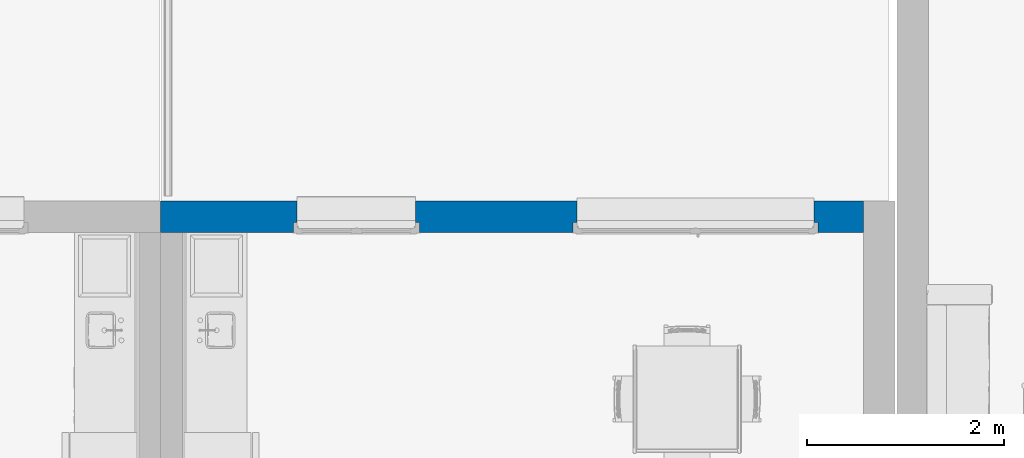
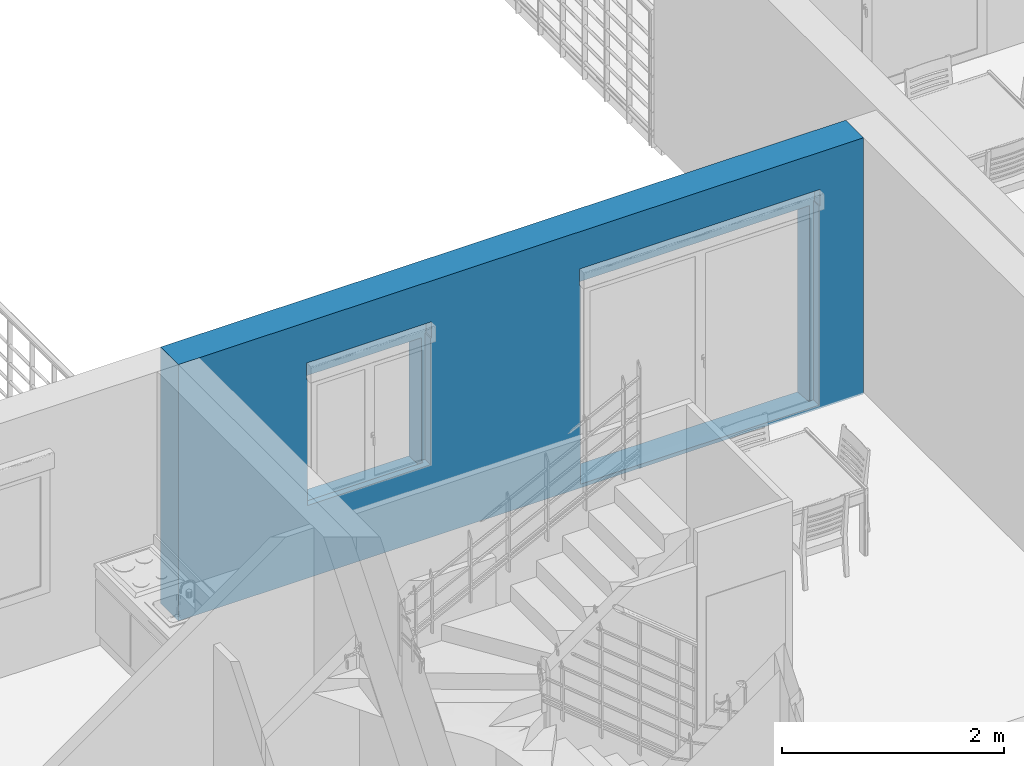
# One storey, part 12 of 33: 1 wall, 2 openings.
"""IFC2X3 building model written with IfcOpenShell, lengths in metres."""

from ifc_helpers import new_model, entity, si_unit, converted_unit, derived_unit, direction, frame, frame_2d, origin, place, context, subcontext, project, spatial, rectangle, extrude, faceted_brep, material, layer, layer_set, layer_usage, type_object, element, save


model = new_model("IFC2X3")

# Units and contexts
model_context = context("Model", 3, precision=1e-05, world=origin(), true_north=direction((6.12303176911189e-17, 1.0)))
context_of_model = context(None, 3, precision=1e-05, world=origin(), true_north=direction((6.12303176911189e-17, 1.0)))
body_context = subcontext(model_context, "Body", "Model", "MODEL_VIEW")
ifc_project = project(units=[si_unit("LENGTHUNIT", "METRE"), si_unit("AREAUNIT", "SQUARE_METRE"), si_unit("VOLUMEUNIT", "CUBIC_METRE"), converted_unit("PLANEANGLEUNIT", "DEGREE", entity("IfcRatioMeasure", 0.0174532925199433), si_unit("PLANEANGLEUNIT", "RADIAN"), dimensions=[0, 0, 0, 0, 0, 0, 0]), si_unit("MASSUNIT", "GRAM", prefix="KILO"), si_unit("TIMEUNIT", "SECOND"), si_unit("FREQUENCYUNIT", "HERTZ"), si_unit("THERMODYNAMICTEMPERATUREUNIT", "DEGREE_CELSIUS"), derived_unit("THERMALTRANSMITTANCEUNIT", [(si_unit("MASSUNIT", "GRAM", prefix="KILO"), 1), (si_unit("THERMODYNAMICTEMPERATUREUNIT", "KELVIN"), -1), (si_unit("TIMEUNIT", "SECOND"), -3)]), derived_unit("VOLUMETRICFLOWRATEUNIT", [(si_unit("LENGTHUNIT", "METRE"), 3), (si_unit("TIMEUNIT", "SECOND"), -1)]), si_unit("ELECTRICCURRENTUNIT", "AMPERE"), si_unit("ELECTRICVOLTAGEUNIT", "VOLT"), si_unit("POWERUNIT", "WATT"), si_unit("FORCEUNIT", "NEWTON", prefix="KILO"), si_unit("ILLUMINANCEUNIT", "LUX"), si_unit("LUMINOUSFLUXUNIT", "LUMEN"), si_unit("LUMINOUSINTENSITYUNIT", "CANDELA"), si_unit("PRESSUREUNIT", "PASCAL")], contexts=[model_context, context_of_model])

# Site, building, storey
site_placement = place(None, origin())
site = spatial("IfcSite", under=ifc_project, at=site_placement, Name="Surface", CompositionType="ELEMENT")
building_placement = place(site_placement, origin())
building = spatial("IfcBuilding", under=site, at=building_placement, CompositionType="ELEMENT")
storey_placement = place(building_placement, origin())
storey = spatial("IfcBuildingStorey", under=building, at=storey_placement, Name="Plan des fondations  Maisons 1 et 2", CompositionType="ELEMENT", Elevation=0.0)

# Wall, openings
ifc_material_1 = material(Name="Enduit blanc cassé2")
ifc_layer_1 = layer(ifc_material_1, 0.02)
ifc_material_2 = material(Name="Parpaing")
ifc_layer_2 = layer(ifc_material_2, 0.2)
ifc_material_3 = material(Name="Isolant")
ifc_layer_3 = layer(ifc_material_3, 0.1)
ifc_layer_set = layer_set([ifc_layer_1, ifc_layer_2, ifc_layer_3], Name="Mur de base:Ext. Parpaing 20 + Isolant 10 enduit blanc cassé")
ifc_layer_usage = layer_usage(ifc_layer_set, "AXIS2", "POSITIVE", -0.16)
wall_type = type_object("IfcWallType", Name="Mur de base:Ext. Parpaing 20 + Isolant 10 enduit blanc cassé", PredefinedType="STANDARD", material=ifc_layer_set)
wall_placement = place(storey_placement, frame((75.962889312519, 88.2677566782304, 0.0), z_axis=(0.0, 0.0, 1.0), x_axis=(-1.0, 0.0, 0.0)))
wall = element("IfcWallStandardCase", 1, at=wall_placement, inside=storey, type_object=wall_type, material=ifc_layer_usage, Name="Mur de base:Ext. Parpaing 20 + Isolant 10 enduit blanc cassé", ObjectType="Mur de base:Ext. Parpaing 20 + Isolant 10 enduit blanc cassé", context=body_context, shape_type="SweptSolid", body=[
    extrude(rectangle(XDim=7.1282629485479, YDim=0.319999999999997, at=frame_2d((3.56413147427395, 0.0), x_axis=(-1.0, 0.0))), origin(), (0.0, 0.0, 1.0), 2.82),
])
opening_1_placement = place(wall_placement, frame((5.79220465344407, 0.499999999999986, 0.719999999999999), z_axis=(0.0, 0.0, 1.0), x_axis=(-1.0, 0.0, 0.0)))
element("IfcOpeningElement", 2, at=opening_1_placement, cuts=wall, Name="Mur de base:Ext. Parpaing 20 + Isolant 10 enduit blanc cassé", ObjectType="Opening", context=body_context, shape_type="Brep", body=[
    faceted_brep([(1.24999999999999, 0.0, 1.43), (0.0499999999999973, 0.0, 1.43), (0.0499999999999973, 0.0, 0.0799999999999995), (1.24999999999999, 0.0, 0.0799999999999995), (1.25, 1.0, 1.43), (1.25, 1.0, 0.0799999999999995), (0.050000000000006, 1.0, 0.0799999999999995), (0.050000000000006, 1.0, 1.43), (1.25, 0.326999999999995, 1.43), (0.050000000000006, 0.326999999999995, 1.43), (0.0499999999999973, 0.326999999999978, 0.0799999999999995), (0.00999999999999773, 0.326999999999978, 0.0799999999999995), (0.00999999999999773, 0.439999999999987, 0.0799999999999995), (0.0499999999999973, 0.439999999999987, 0.0799999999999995), (0.0499999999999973, 0.405000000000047, 0.0799999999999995), (1.25, 0.405000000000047, 0.0799999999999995), (1.25, 0.439999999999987, 0.0799999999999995), (1.28999999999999, 0.439999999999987, 0.0799999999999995), (1.28999999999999, 0.326999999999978, 0.0799999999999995), (1.25, 0.326999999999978, 0.0799999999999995), (1.29, 0.326999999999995, 1.47), (0.00999999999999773, 0.326999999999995, 1.47), (0.00999999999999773, 0.440000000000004, 1.47), (0.0, 0.440000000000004, 1.47), (0.0, 0.440000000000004, 1.65), (1.3, 0.439999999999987, 1.65), (1.3, 0.440000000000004, 1.47), (1.28999999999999, 0.440000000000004, 1.47), (1.25, 0.439999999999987, 1.43), (0.050000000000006, 0.439999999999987, 1.43), (0.0, 0.307, 1.65), (0.0, 0.307, 1.47), (1.3, 0.307, 1.65), (1.3, 0.307, 1.47), (0.0499999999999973, 0.439999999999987, 0.0), (1.24999999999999, 0.439999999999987, 0.0), (1.25, 0.405000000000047, 0.0349999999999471), (0.0499999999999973, 0.405000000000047, 0.0349999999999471), (0.0499999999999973, 0.705000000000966, 0.0799999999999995), (1.25, 0.705000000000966, 0.0799999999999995), (1.25, 0.705000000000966, 0.0), (0.0499999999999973, 0.705000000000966, 0.0)], [[[0, 1, 2, 3]], [[4, 5, 6, 7]], [[0, 8, 9, 1]], [[1, 9, 10, 2]], [[2, 10, 11, 12, 13, 14, 15, 16, 17, 18, 19, 3]], [[3, 19, 8, 0]], [[10, 9, 8, 19, 18, 20, 21, 11]], [[11, 21, 22, 12]], [[12, 22, 23, 24, 25, 26, 27, 17, 16, 28, 29, 13]], [[18, 17, 27, 20]], [[30, 24, 23, 31]], [[32, 33, 26, 25]], [[30, 32, 25, 24]], [[23, 22, 21, 20, 27, 26, 33, 31]], [[31, 33, 32, 30]], [[34, 35, 36, 37]], [[37, 36, 15, 14]], [[38, 39, 40, 41]], [[41, 40, 35, 34]], [[4, 28, 16, 15, 36, 35, 40, 39, 5]], [[5, 39, 38, 6]], [[6, 38, 41, 34, 37, 14, 13, 29, 7]], [[7, 29, 28, 4]]]),
])
opening_2_placement = place(wall_placement, frame((2.95307317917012, 0.5, 0.006120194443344), z_axis=(0.0, 0.0, 1.0), x_axis=(-1.0, 0.0, 0.0)))
element("IfcOpeningElement", 3, at=opening_2_placement, cuts=wall, Name="Mur de base:Ext. Parpaing 20 + Isolant 10 enduit blanc cassé", ObjectType="Opening", context=body_context, shape_type="Brep", body=[
    faceted_brep([(2.44999999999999, 0.0, 2.18387980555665), (0.0499999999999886, 0.0, 2.18387980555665), (0.0499999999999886, 0.0, 0.0338798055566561), (2.44999999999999, 0.0, 0.0338798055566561), (2.45, 1.0, 2.18387980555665), (2.45, 1.0, 0.0338798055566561), (0.0499999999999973, 1.0, 0.0338798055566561), (0.0499999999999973, 1.0, 2.18387980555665), (2.44999999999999, 0.327000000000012, 2.18387980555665), (0.0499999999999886, 0.327000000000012, 2.18387980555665), (0.0499999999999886, 0.326999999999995, 0.0338798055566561), (0.00999999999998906, 0.326999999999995, 0.0338798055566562), (0.00999999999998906, 0.440000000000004, 0.0338798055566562), (0.0499999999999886, 0.440000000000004, 0.0338798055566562), (0.0499999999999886, 0.437999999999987, 0.0338798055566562), (2.44999999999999, 0.437999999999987, 0.0338798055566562), (2.44999999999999, 0.440000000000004, 0.0338798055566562), (2.48999999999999, 0.440000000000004, 0.0338798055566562), (2.48999999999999, 0.326999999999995, 0.0338798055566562), (2.44999999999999, 0.326999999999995, 0.0338798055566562), (2.48999999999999, 0.327000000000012, 2.22387980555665), (0.00999999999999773, 0.327000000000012, 2.22387980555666), (0.00999999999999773, 0.440000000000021, 2.22387980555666), (0.0, 0.440000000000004, 2.22387980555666), (0.0, 0.440000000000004, 2.40387980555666), (2.49999999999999, 0.440000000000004, 2.40387980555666), (2.49999999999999, 0.440000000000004, 2.22387980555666), (2.49, 0.440000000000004, 2.22387980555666), (2.44999999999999, 0.440000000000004, 2.18387980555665), (0.0499999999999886, 0.440000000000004, 2.18387980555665), (0.0, 0.307, 2.40387980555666), (0.0, 0.307, 2.22387980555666), (2.49999999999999, 0.307, 2.40387980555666), (2.49999999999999, 0.307, 2.22387980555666), (0.0499999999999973, 0.437999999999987, 0.0220471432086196), (2.45, 0.437999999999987, 0.0220471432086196), (0.0499999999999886, 0.690000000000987, 0.0338798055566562), (2.44999999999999, 0.690000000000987, 0.0338798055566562), (2.44999999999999, 0.690000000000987, 0.0), (0.0499999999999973, 0.690000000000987, 0.0)], [[[0, 1, 2, 3]], [[4, 5, 6, 7]], [[0, 8, 9, 1]], [[1, 9, 10, 2]], [[2, 10, 11, 12, 13, 14, 15, 16, 17, 18, 19, 3]], [[3, 19, 8, 0]], [[10, 9, 8, 19, 18, 20, 21, 11]], [[11, 21, 22, 12]], [[12, 22, 23, 24, 25, 26, 27, 17, 16, 28, 29, 13]], [[18, 17, 27, 20]], [[30, 24, 23, 31]], [[32, 33, 26, 25]], [[30, 32, 25, 24]], [[23, 22, 21, 20, 27, 26, 33, 31]], [[31, 33, 32, 30]], [[34, 35, 15, 14]], [[36, 37, 38, 39]], [[39, 38, 35, 34]], [[4, 28, 16, 15, 35, 38, 37, 5]], [[5, 37, 36, 6]], [[6, 36, 39, 34, 14, 13, 29, 7]], [[7, 29, 28, 4]]]),
])

save(model, "model.ifc")
